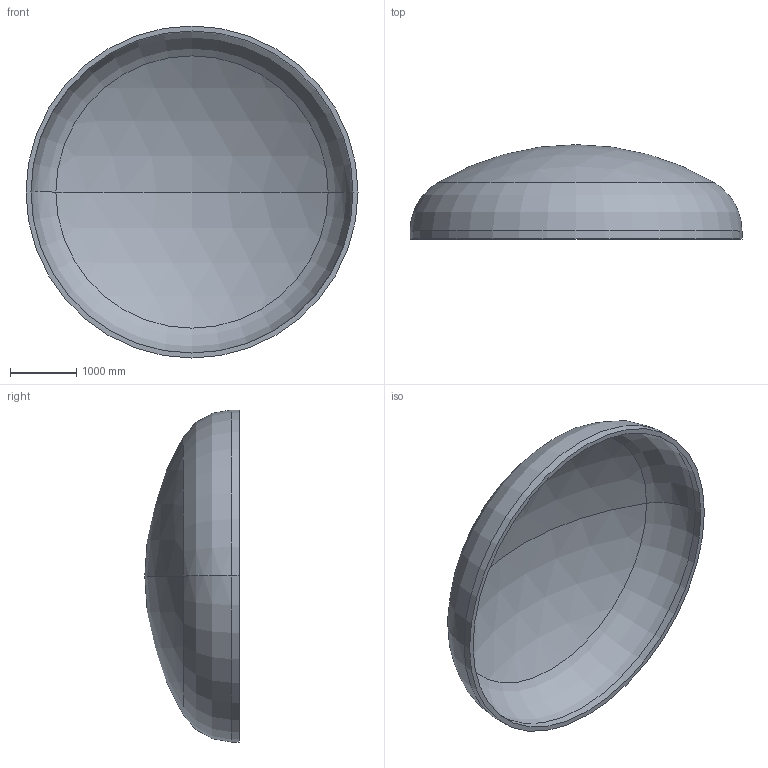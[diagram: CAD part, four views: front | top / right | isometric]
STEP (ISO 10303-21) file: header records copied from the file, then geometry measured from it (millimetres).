
FILE_DESCRIPTION (( 'STEP AP203' ), '1' );
FILE_NAME ('DIN 28013 Korbbogenform_-_Boden DIN 28013 - 5000 x 120 - I - s=74.step', '2016-07-02T00:45:09', ( '' ), ( '' ), 'SwSTEP 2.0', 'SolidWorks 2013', '' );
FILE_SCHEMA (( 'CONFIG_CONTROL_DESIGN' ));
Length unit declared in the file: millimetre
Products named in the file (1): DIN 28013 Korbbogenform_-_Boden DIN 28013 - 5000 x 120 - I - s=74
Bounding box: 5000 x 1420.81 x 5000 mm (x, y, z)
Volume: 2110834591.6 mm3; surface area: 58206217.5 mm2
Topology: 1 solids, 1 shells, 13 faces, 24 edges, 14 vertices
Faces by surface type: torus 4, cylinder 4, sphere 4, plane 1
Entity records: 407 total; most frequent: DIRECTION 72, CARTESIAN_POINT 52, ORIENTED_EDGE 48, AXIS2_PLACEMENT_3D 34, EDGE_CURVE 24, CIRCLE 20, EDGE_LOOP 14, VERTEX_POINT 14
